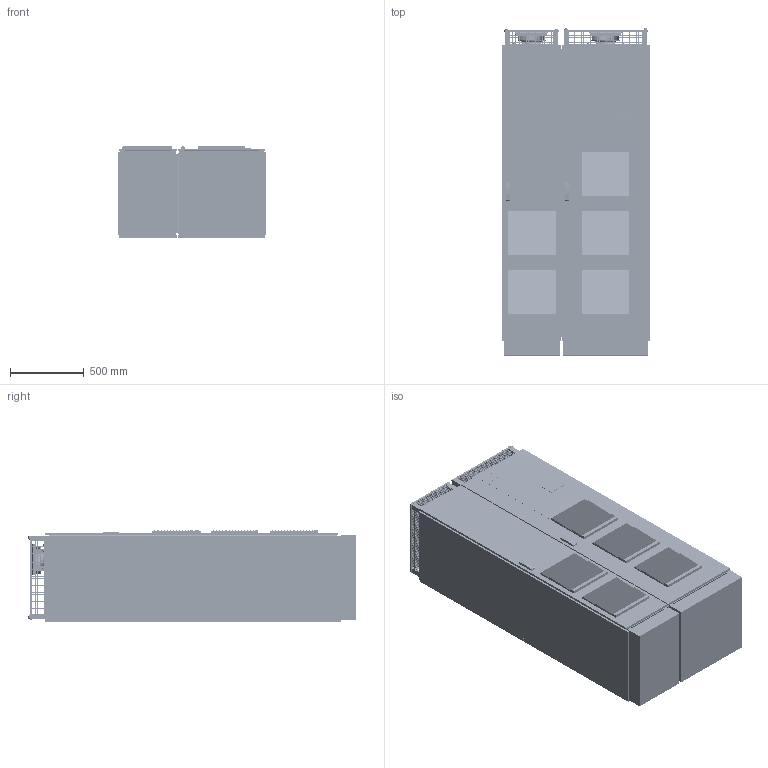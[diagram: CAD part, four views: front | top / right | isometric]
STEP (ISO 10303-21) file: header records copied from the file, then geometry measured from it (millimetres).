
FILE_DESCRIPTION((''),'2;1');
FILE_NAME('MARKETING_ASM','2010-03-03T',('breuilhp'),(''),'PRO/ENGINEER BY PARAMETRIC TECHNOLOGY CORPORATION, 2009460','PRO/ENGINEER BY PARAMETRIC TECHNOLOGY CORPORATION, 2009460','');
FILE_SCHEMA(('CONFIG_CONTROL_DESIGN'));
Products named in the file (48): SOCLE_400X600; CADRE_400X600; POTEAU_2000; TS8_CHASSIS_2000X400X600_ASM; 28-0-00008-44; PORTE_TS8_2000X400_AF0; 8XXX_00_21; 8XXX_00_25; 28-0-00007-44_ASM; PANNEAU_AR_2000X400; PANNEAU_LATTERAL_2000X600; SK3326207; 28-5-21031-40; M6X15; M4X10; 28-5-21031-40_ASM; 28-0-00015-40; RIVET_POP_D4; 28-0-00016-26_ASM; 16043-A; 28-0-00016-40; 19008; WAGO_261-104; ECOFIT_D27-A2; M8; M4; 28-0-10001-60; 91902; M6; VIS004VS033; 28-5-21013-26_ASM; 28-A-21078-40; RONDELLE_27X12; SOCLE_600X600; CADRE_600X600; TS8_CHASSIS_2000X600X600_ASM; 28-0-00001-44; PORTE_TS8_2000X600_AF0; 28-0-00006-44_ASM; 28-A-21048-40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
Assembly tree (103 placements, depth 6):
  MARKETING_ASM
    TS8_CHASSIS_2000X400X600_ASM
      SOCLE_400X600
      CADRE_400X600  x2
      POTEAU_2000  x4
    28-0-00008-44
    28-0-00007-44_ASM
      PORTE_TS8_2000X400_AF0
      8XXX_00_21  x4
      8XXX_00_25
    PANNEAU_AR_2000X400
    PANNEAU_LATTERAL_2000X600
    SK3326207  x2
    28-5-21013-26_ASM
      28-0-00016-26_ASM
        28-5-21031-40_ASM
          28-5-21031-40
          M6X15  x11
          M4X10  x4
        28-0-00015-40
        RIVET_POP_D4  x2
      16043-A
      28-0-00016-40
      19008
      WAGO_261-104
      ECOFIT_D27-A2
      M8
      M4  x4
      28-0-10001-60
      91902
      M6  x4
      VIS004VS033  x4
    28-A-21078-40
    RONDELLE_27X12  x4
    ARMOIRE_PRINCIPALE_MARKETING_ASM
      TS8_CHASSIS_2000X600X600_ASM
        SOCLE_600X600
        CADRE_600X600  x2
        POTEAU_2000  x4
      28-0-00001-44
      28-0-00006-44_ASM
        PORTE_TS8_2000X600_AF0
        8XXX_00_21  x4
        8XXX_00_25
      28-A-21048-40
      RONDELLE_27X12  x4
      PANNEAU_AR_2000X600
      PANNEAU_LATTERAL_2000X600
      SK3326207  x3
      IHM
      28-5-21013-26_ASM
        28-0-00016-26_ASM
          28-5-21031-40_ASM
            28-5-21031-40
            M6X15  x11
            M4X10  x4
          28-0-00015-40
          RIVET_POP_D4  x2
        16043-A
        28-0-00016-40
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Bounding box: 1006 x 2212.3 x 622.5 mm (x, y, z)
Volume: 98343709.4 mm3; surface area: 26584664.4 mm2
Topology: 143 solids, 227 shells, 35992 faces, 87822 edges, 52491 vertices
Faces by surface type: plane 21665, cylinder 12959, cone 560, extrusion 378, torus 342, bspline 60, sphere 24, revolution 4
Entity records: 554038 total; most frequent: CARTESIAN_POINT 115809, ORIENTED_EDGE 92032, DIRECTION 82928, EDGE_CURVE 46079, VECTOR 38736, LINE 38547, VERTEX_POINT 29789, EDGE_LOOP 22965
